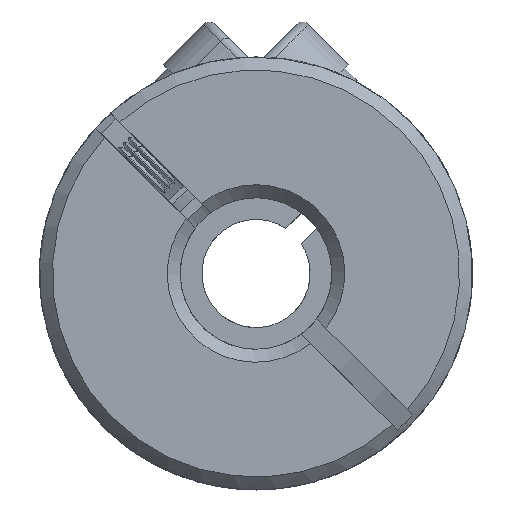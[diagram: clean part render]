
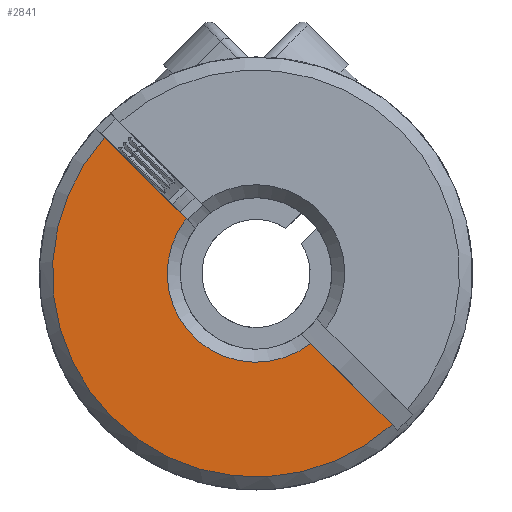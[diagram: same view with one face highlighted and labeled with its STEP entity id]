
A CAD part, front view. The second image highlights one B-rep face of the part: STEP entity #2841.
In plain terms, the highlighted planar face has unit normal (0, -1, 0).
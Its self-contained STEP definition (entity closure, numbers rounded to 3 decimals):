
#220 = DIRECTION ( 'NONE',  ( -0.707, 0., 0.707 ) ) ;
#738 = FACE_OUTER_BOUND ( 'NONE', #8585, .T. ) ;
#1557 = CARTESIAN_POINT ( 'NONE',  ( 6.284, -11.2, -6.991 ) ) ;
#1608 = AXIS2_PLACEMENT_3D ( 'NONE', #7828, #4532, #6812 ) ;
#2109 = CARTESIAN_POINT ( 'NONE',  ( 0.205, -11.2, -0.912 ) ) ;
#2131 = PLANE ( 'NONE',  #1608 ) ;
#2841 = ADVANCED_FACE ( 'NONE', ( #738 ), #2131, .T. ) ;
#3154 = DIRECTION ( 'NONE',  ( 0., -1., 0. ) ) ;
#4439 = VECTOR ( 'NONE', #6796, 1000. ) ;
#4532 = DIRECTION ( 'NONE',  ( 0., -1., 0. ) ) ;
#4537 = DIRECTION ( 'NONE',  ( 0., 1., 0. ) ) ;
#4551 = ORIENTED_EDGE ( 'NONE', *, *, #14363, .T. ) ;
#4903 = CARTESIAN_POINT ( 'NONE',  ( -8.839, -11.2, 8.132 ) ) ;
#5257 = VERTEX_POINT ( 'NONE', #13830 ) ;
#6617 = CARTESIAN_POINT ( 'NONE',  ( 0., -11.2, 0. ) ) ;
#6796 = DIRECTION ( 'NONE',  ( -0.707, 0., 0.707 ) ) ;
#6812 = DIRECTION ( 'NONE',  ( -0.707, 0., 0.707 ) ) ;
#6861 = CARTESIAN_POINT ( 'NONE',  ( 0., -11.2, 0. ) ) ;
#7154 = AXIS2_PLACEMENT_3D ( 'NONE', #6617, #3154, #12582 ) ;
#7638 = ORIENTED_EDGE ( 'NONE', *, *, #8808, .T. ) ;
#7828 = CARTESIAN_POINT ( 'NONE',  ( 45.083, -11.2, 25.627 ) ) ;
#8295 = EDGE_CURVE ( 'NONE', #13654, #5257, #10328, .T. ) ;
#8585 = EDGE_LOOP ( 'NONE', ( #8927, #4551, #13009, #7638 ) ) ;
#8808 = EDGE_CURVE ( 'NONE', #5257, #14549, #13388, .T. ) ;
#8927 = ORIENTED_EDGE ( 'NONE', *, *, #12599, .T. ) ;
#9672 = CARTESIAN_POINT ( 'NONE',  ( -3.231, -11.2, 2.524 ) ) ;
#10328 = LINE ( 'NONE', #4903, #13595 ) ;
#10336 = CIRCLE ( 'NONE', #7154, 9.4 ) ;
#10590 = LINE ( 'NONE', #2109, #4439 ) ;
#11815 = VERTEX_POINT ( 'NONE', #13076 ) ;
#12582 = DIRECTION ( 'NONE',  ( -0.707, 0., 0.707 ) ) ;
#12599 = EDGE_CURVE ( 'NONE', #14549, #11815, #10590, .T. ) ;
#13009 = ORIENTED_EDGE ( 'NONE', *, *, #8295, .T. ) ;
#13022 = AXIS2_PLACEMENT_3D ( 'NONE', #6861, #4537, #13950 ) ;
#13076 = CARTESIAN_POINT ( 'NONE',  ( -6.991, -11.2, 6.284 ) ) ;
#13388 = CIRCLE ( 'NONE', #13022, 4.1 ) ;
#13595 = VECTOR ( 'NONE', #220, 1000. ) ;
#13654 = VERTEX_POINT ( 'NONE', #1557 ) ;
#13830 = CARTESIAN_POINT ( 'NONE',  ( 2.524, -11.2, -3.231 ) ) ;
#13950 = DIRECTION ( 'NONE',  ( -0.707, 0., 0.707 ) ) ;
#14363 = EDGE_CURVE ( 'NONE', #11815, #13654, #10336, .T. ) ;
#14549 = VERTEX_POINT ( 'NONE', #9672 ) ;
